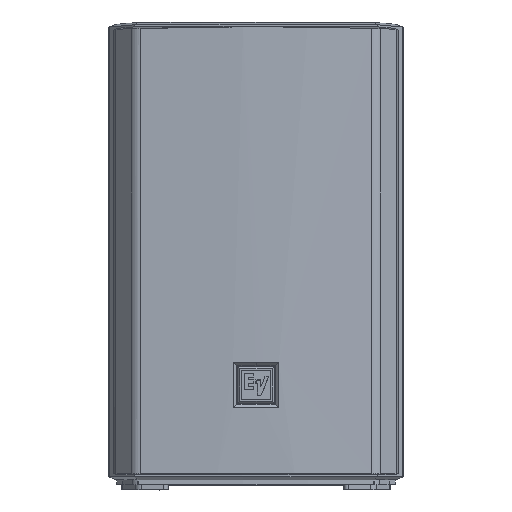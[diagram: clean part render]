
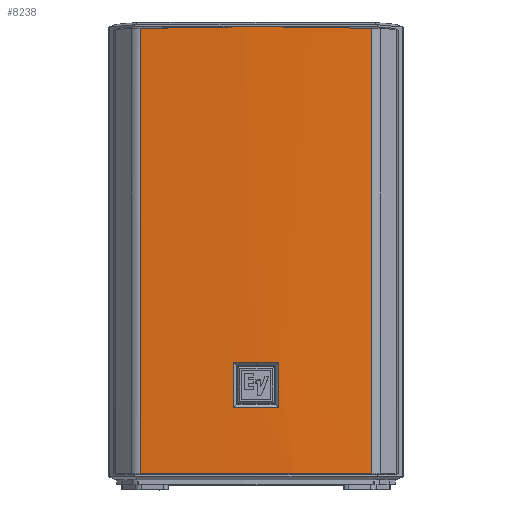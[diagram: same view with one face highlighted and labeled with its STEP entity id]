
A CAD part, top view. The second image highlights one B-rep face of the part: STEP entity #8238.
In plain terms, the highlighted cylindrical face has radius 1196.01 mm (diameter 2392.01 mm), a partial arc.
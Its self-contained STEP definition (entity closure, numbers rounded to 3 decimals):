
#981 = CARTESIAN_POINT ( 'NONE',  ( -75.904, 219.46, 62.198 ) ) ;
#2851 = FACE_BOUND ( 'NONE', #40197, .T. ) ;
#2978 = CARTESIAN_POINT ( 'NONE',  ( 22.537, 225., 63.788 ) ) ;
#3568 = VERTEX_POINT ( 'NONE', #7250 ) ;
#3657 = CARTESIAN_POINT ( 'NONE',  ( 113.856, 218.379, 58.568 ) ) ;
#3767 = CIRCLE ( 'NONE', #44460, 1196.005 ) ;
#4808 = ORIENTED_EDGE ( 'NONE', *, *, #31014, .T. ) ;
#4830 = CARTESIAN_POINT ( 'NONE',  ( -113.856, 218.379, 58.568 ) ) ;
#5407 = AXIS2_PLACEMENT_3D ( 'NONE', #31987, #31481, #19781 ) ;
#5778 = EDGE_CURVE ( 'NONE', #42382, #23199, #3767, .T. ) ;
#6338 = EDGE_CURVE ( 'NONE', #11648, #34496, #11941, .T. ) ;
#7250 = CARTESIAN_POINT ( 'NONE',  ( 0., -109.457, 64. ) ) ;
#8238 = ADVANCED_FACE ( 'NONE', ( #2851, #46204 ), #17937, .T. ) ;
#8918 = CARTESIAN_POINT ( 'NONE',  ( 113.856, 218.379, 58.568 ) ) ;
#9383 = EDGE_CURVE ( 'NONE', #18800, #11648, #32958, .T. ) ;
#10232 = AXIS2_PLACEMENT_3D ( 'NONE', #22485, #38044, #37543 ) ;
#10651 = CARTESIAN_POINT ( 'NONE',  ( -22.537, 225., 63.788 ) ) ;
#11399 = VECTOR ( 'NONE', #44691, 1000. ) ;
#11648 = VERTEX_POINT ( 'NONE', #46526 ) ;
#11650 = LINE ( 'NONE', #2978, #29673 ) ;
#11941 = CIRCLE ( 'NONE', #5407, 1196.005 ) ;
#12958 = CARTESIAN_POINT ( 'NONE',  ( 22.537, -109.457, 63.788 ) ) ;
#13444 = ORIENTED_EDGE ( 'NONE', *, *, #26492, .T. ) ;
#14701 = VECTOR ( 'NONE', #30500, 1000. ) ;
#16059 = VERTEX_POINT ( 'NONE', #12958 ) ;
#16329 = CARTESIAN_POINT ( 'NONE',  ( -113.856, 218.379, 58.568 ) ) ;
#17629 = DIRECTION ( 'NONE',  ( 0., 0., -1. ) ) ;
#17748 = EDGE_LOOP ( 'NONE', ( #26266, #31241, #43311, #13444 ) ) ;
#17894 = CARTESIAN_POINT ( 'NONE',  ( 0., -109.457, -1132.005 ) ) ;
#17937 = CYLINDRICAL_SURFACE ( 'NONE', #10232, 1196.005 ) ;
#18800 = VERTEX_POINT ( 'NONE', #3657 ) ;
#19118 = ORIENTED_EDGE ( 'NONE', *, *, #48543, .T. ) ;
#19746 = VERTEX_POINT ( 'NONE', #41160 ) ;
#19781 = DIRECTION ( 'NONE',  ( 0., 0., -1. ) ) ;
#22231 = EDGE_CURVE ( 'NONE', #23199, #19746, #30743, .T. ) ;
#22485 = CARTESIAN_POINT ( 'NONE',  ( 0., 225., -1132.005 ) ) ;
#23199 = VERTEX_POINT ( 'NONE', #47856 ) ;
#24155 = DIRECTION ( 'NONE',  ( 0., -1., 0. ) ) ;
#24412 = CARTESIAN_POINT ( 'NONE',  ( 0., -154.543, -1132.005 ) ) ;
#26266 = ORIENTED_EDGE ( 'NONE', *, *, #6338, .F. ) ;
#26492 = EDGE_CURVE ( 'NONE', #40260, #34496, #46928, .T. ) ;
#26819 = DIRECTION ( 'NONE',  ( 0., -1., 0. ) ) ;
#27833 = CIRCLE ( 'NONE', #44175, 1196.005 ) ;
#28963 = CARTESIAN_POINT ( 'NONE',  ( -113.856, -219., 58.568 ) ) ;
#29176 = CARTESIAN_POINT ( 'NONE',  ( 22.537, -154.543, 63.788 ) ) ;
#29649 = ORIENTED_EDGE ( 'NONE', *, *, #5778, .T. ) ;
#29673 = VECTOR ( 'NONE', #34344, 1000. ) ;
#29726 = B_SPLINE_CURVE_WITH_KNOTS ( 'NONE', 3,
 ( #16329, #981, #43575, #36421, #8918 ),
 .UNSPECIFIED., .F., .F.,
 ( 4, 1, 4 ),
 ( 0., 0.114, 0.228 ),
 .UNSPECIFIED. ) ;
#30500 = DIRECTION ( 'NONE',  ( 0., 1., 0. ) ) ;
#30743 = LINE ( 'NONE', #10651, #14701 ) ;
#31014 = EDGE_CURVE ( 'NONE', #3568, #16059, #27833, .T. ) ;
#31157 = CIRCLE ( 'NONE', #32787, 1196.005 ) ;
#31241 = ORIENTED_EDGE ( 'NONE', *, *, #9383, .F. ) ;
#31372 = CARTESIAN_POINT ( 'NONE',  ( -113.856, 225., 58.568 ) ) ;
#31481 = DIRECTION ( 'NONE',  ( 0., -1., 0. ) ) ;
#31987 = CARTESIAN_POINT ( 'NONE',  ( 0., -219., -1132.005 ) ) ;
#32787 = AXIS2_PLACEMENT_3D ( 'NONE', #17894, #37504, #17629 ) ;
#32958 = LINE ( 'NONE', #33475, #11399 ) ;
#33475 = CARTESIAN_POINT ( 'NONE',  ( 113.856, 225., 58.568 ) ) ;
#34344 = DIRECTION ( 'NONE',  ( 0., -1., 0. ) ) ;
#34496 = VERTEX_POINT ( 'NONE', #28963 ) ;
#34593 = DIRECTION ( 'NONE',  ( 0., 1., 0. ) ) ;
#35574 = CARTESIAN_POINT ( 'NONE',  ( 0., -109.457, -1132.005 ) ) ;
#36421 = CARTESIAN_POINT ( 'NONE',  ( 75.904, 219.46, 62.198 ) ) ;
#37504 = DIRECTION ( 'NONE',  ( 0., 1., 0. ) ) ;
#37543 = DIRECTION ( 'NONE',  ( 0., 0., -1. ) ) ;
#38044 = DIRECTION ( 'NONE',  ( 0., -1., 0. ) ) ;
#39700 = DIRECTION ( 'NONE',  ( 0., 0., 1. ) ) ;
#40197 = EDGE_LOOP ( 'NONE', ( #40907, #4808, #19118, #29649, #44128 ) ) ;
#40260 = VERTEX_POINT ( 'NONE', #4830 ) ;
#40907 = ORIENTED_EDGE ( 'NONE', *, *, #44825, .T. ) ;
#41160 = CARTESIAN_POINT ( 'NONE',  ( -22.537, -109.457, 63.788 ) ) ;
#42382 = VERTEX_POINT ( 'NONE', #29176 ) ;
#43311 = ORIENTED_EDGE ( 'NONE', *, *, #45016, .F. ) ;
#43575 = CARTESIAN_POINT ( 'NONE',  ( 0., 220.54, 65.802 ) ) ;
#44128 = ORIENTED_EDGE ( 'NONE', *, *, #22231, .T. ) ;
#44175 = AXIS2_PLACEMENT_3D ( 'NONE', #35574, #34593, #50143 ) ;
#44460 = AXIS2_PLACEMENT_3D ( 'NONE', #24412, #24155, #39700 ) ;
#44691 = DIRECTION ( 'NONE',  ( 0., -1., 0. ) ) ;
#44825 = EDGE_CURVE ( 'NONE', #19746, #3568, #31157, .T. ) ;
#45016 = EDGE_CURVE ( 'NONE', #40260, #18800, #29726, .T. ) ;
#46204 = FACE_OUTER_BOUND ( 'NONE', #17748, .T. ) ;
#46526 = CARTESIAN_POINT ( 'NONE',  ( 113.856, -219., 58.568 ) ) ;
#46830 = VECTOR ( 'NONE', #26819, 1000. ) ;
#46928 = LINE ( 'NONE', #31372, #46830 ) ;
#47856 = CARTESIAN_POINT ( 'NONE',  ( -22.537, -154.543, 63.788 ) ) ;
#48543 = EDGE_CURVE ( 'NONE', #16059, #42382, #11650, .T. ) ;
#50143 = DIRECTION ( 'NONE',  ( 0., 0., -1. ) ) ;
